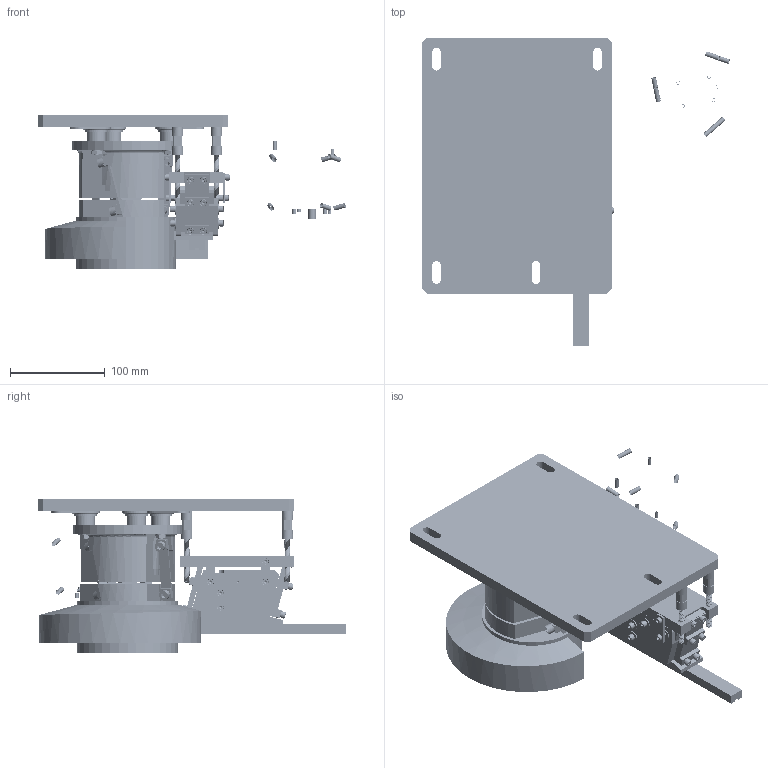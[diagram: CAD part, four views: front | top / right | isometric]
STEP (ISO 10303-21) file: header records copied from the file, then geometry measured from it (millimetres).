
FILE_DESCRIPTION((''),'2;1');
FILE_NAME('0-ZU-ZHUANG_ASM','2014-08-23T',('Administrator'),(''),'PRO/ENGINEER BY PARAMETRIC TECHNOLOGY CORPORATION, 2009280','PRO/ENGINEER BY PARAMETRIC TECHNOLOGY CORPORATION, 2009280','');
FILE_SCHEMA(('CONFIG_CONTROL_DESIGN'));
Length unit declared in the file: millimetre
Products named in the file (7): YUAN-PAN; BM-10; ZHI-XIAN-GUI-DAO; DI-BAN; LM0-21; ZHU-ZHI; 0-ZU-ZHUANG_ASM
Assembly tree (9 placements, depth 2):
  0-ZU-ZHUANG_ASM
    YUAN-PAN
    BM-10
    ZHI-XIAN-GUI-DAO
    DI-BAN
    LM0-21
    ZHU-ZHI  x4
Bounding box: 324.48 x 325 x 162 mm (x, y, z)
Volume: 2025727.4 mm3; surface area: 385206.3 mm2
Topology: 9 solids, 125 shells, 2601 faces, 7369 edges, 4959 vertices
Faces by surface type: plane 1132, cylinder 1116, bspline 128, torus 118, cone 107
Entity records: 79939 total; most frequent: CARTESIAN_POINT 24183, ORIENTED_EDGE 11568, DIRECTION 11555, EDGE_CURVE 5966, AXIS2_PLACEMENT_3D 4331, VERTEX_POINT 4110, VECTOR 2893, LINE 2893
